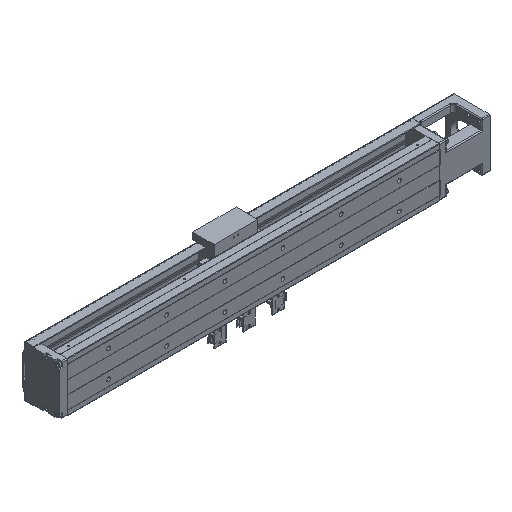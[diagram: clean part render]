
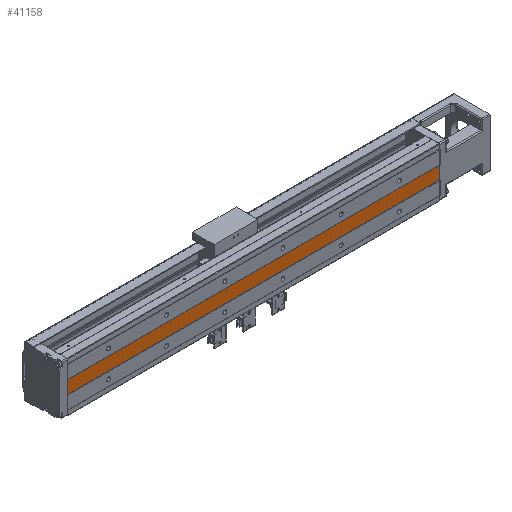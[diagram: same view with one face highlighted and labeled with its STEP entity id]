
A CAD part, isometric view. The second image highlights one B-rep face of the part: STEP entity #41158.
In plain terms, the highlighted planar face has unit normal (0, -1, 0).
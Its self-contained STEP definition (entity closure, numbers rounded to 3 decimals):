
#528 = FACE_OUTER_BOUND ( 'NONE', #31542, .T. ) ;
#1007 = LINE ( 'NONE', #33347, #6785 ) ;
#1802 = CARTESIAN_POINT ( 'NONE',  ( -370., -31.5, 11. ) ) ;
#2996 = EDGE_CURVE ( 'NONE', #11172, #3919, #1007, .T. ) ;
#3383 = EDGE_CURVE ( 'NONE', #35178, #43333, #21916, .T. ) ;
#3477 = VECTOR ( 'NONE', #43250, 1000. ) ;
#3919 = VERTEX_POINT ( 'NONE', #12675 ) ;
#4120 = VECTOR ( 'NONE', #14200, 1000. ) ;
#6785 = VECTOR ( 'NONE', #20138, 1000. ) ;
#9778 = LINE ( 'NONE', #16562, #3477 ) ;
#11172 = VERTEX_POINT ( 'NONE', #27770 ) ;
#12675 = CARTESIAN_POINT ( 'NONE',  ( 270., -31.5, -11. ) ) ;
#13923 = ORIENTED_EDGE ( 'NONE', *, *, #29619, .F. ) ;
#14200 = DIRECTION ( 'NONE',  ( 1., 0., 0. ) ) ;
#14336 = ORIENTED_EDGE ( 'NONE', *, *, #18323, .T. ) ;
#15558 = DIRECTION ( 'NONE',  ( 0., 0., -1. ) ) ;
#15614 = DIRECTION ( 'NONE',  ( -1., 0., 0. ) ) ;
#16562 = CARTESIAN_POINT ( 'NONE',  ( -370., -31.5, -5.5 ) ) ;
#18323 = EDGE_CURVE ( 'NONE', #35178, #11172, #9778, .T. ) ;
#20138 = DIRECTION ( 'NONE',  ( 1., 0., 0. ) ) ;
#21395 = ORIENTED_EDGE ( 'NONE', *, *, #3383, .F. ) ;
#21916 = LINE ( 'NONE', #34297, #4120 ) ;
#22432 = CARTESIAN_POINT ( 'NONE',  ( 270., -31.5, -11. ) ) ;
#22656 = AXIS2_PLACEMENT_3D ( 'NONE', #22432, #25470, #15614 ) ;
#23460 = ORIENTED_EDGE ( 'NONE', *, *, #2996, .T. ) ;
#25410 = CARTESIAN_POINT ( 'NONE',  ( 270., -31.5, 11. ) ) ;
#25470 = DIRECTION ( 'NONE',  ( 0., -1., 0. ) ) ;
#27770 = CARTESIAN_POINT ( 'NONE',  ( -370., -31.5, -11. ) ) ;
#27897 = LINE ( 'NONE', #25410, #43147 ) ;
#29619 = EDGE_CURVE ( 'NONE', #43333, #3919, #27897, .T. ) ;
#31542 = EDGE_LOOP ( 'NONE', ( #14336, #23460, #13923, #21395 ) ) ;
#31631 = CARTESIAN_POINT ( 'NONE',  ( 270., -31.5, 11. ) ) ;
#32320 = PLANE ( 'NONE',  #22656 ) ;
#33347 = CARTESIAN_POINT ( 'NONE',  ( -470., -31.5, -11. ) ) ;
#34297 = CARTESIAN_POINT ( 'NONE',  ( -470., -31.5, 11. ) ) ;
#35178 = VERTEX_POINT ( 'NONE', #1802 ) ;
#41158 = ADVANCED_FACE ( 'NONE', ( #528 ), #32320, .T. ) ;
#43147 = VECTOR ( 'NONE', #15558, 1000. ) ;
#43250 = DIRECTION ( 'NONE',  ( 0., 0., -1. ) ) ;
#43333 = VERTEX_POINT ( 'NONE', #31631 ) ;
